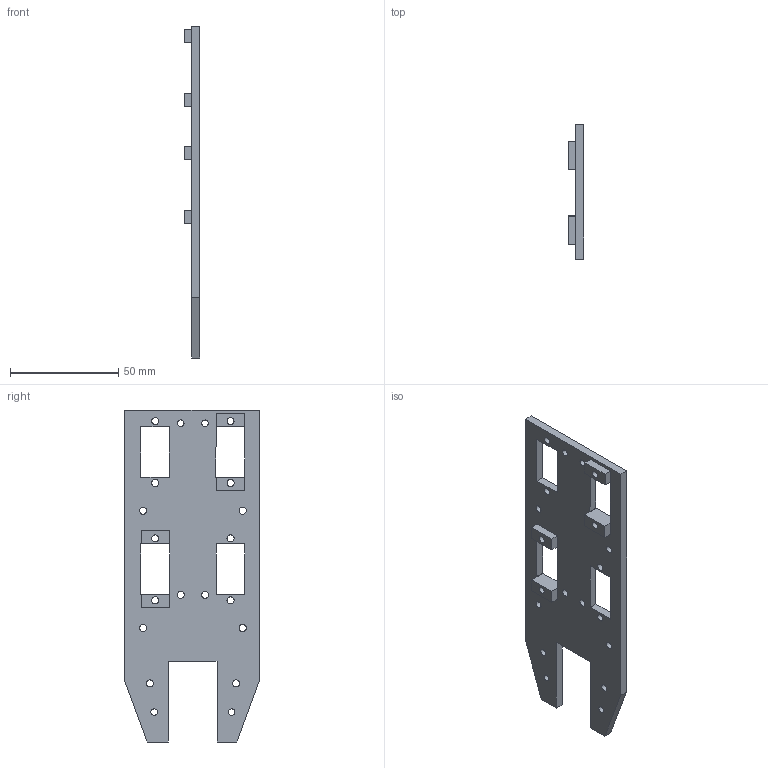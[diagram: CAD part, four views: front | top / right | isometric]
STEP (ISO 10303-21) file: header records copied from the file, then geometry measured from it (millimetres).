
FILE_DESCRIPTION(/* description */ ('STEP AP242 Edition 2','CAx-IF Rec.Pracs.---Representation and Presentation of Product Manufacturing Information (PMI)---4.0---2014-10-13','CAx-IF Rec.Pracs.---3D Tessellated Geometry---0.4---2014-09-14','2;1','CAx-IF Rec.Pracs.---User Defined Attributes---1.5---2016-08-15'),/* implementation_level */ '2;1');
FILE_NAME(/* name */ 'Assembly 1 - servo board',/* time_stamp */ '2026-06-19T18:21:10Z',/* author */ (''),/* organization */ (''),/* preprocessor_version */ 'ST-DEVELOPER v20',/* originating_system */ 'ONSHAPE BY PTC INC, 1.216',/* authorisation */ ' ');
FILE_SCHEMA (('AP242_MANAGED_MODEL_BASED_3D_ENGINEERING_MIM_LF { 1 0 10303 442 3 1 4 }'));
Length unit declared in the file: metre
Products named in the file (1): servo board
Bounding box: 7.36 x 62.18 x 153.27 mm (x, y, z)
Volume: 27520.8 mm3; surface area: 18412.9 mm2
Topology: 1 solids, 1 shells, 84 faces, 240 edges, 160 vertices
Faces by surface type: plane 64, cylinder 20
Full cylindrical faces by diameter (mm): 3.036 x1, 3.049 x1, 3.052 x1, 3.054 x1, 3.244 x2, 3.251 x1, 3.258 x1, 3.259 x3, 3.262 x1, 3.264 x1, 3.265 x1, 3.266 x1, 3.271 x3, 3.272 x1, 3.273 x1
Entity records: 2742 total; most frequent: CARTESIAN_POINT 465, ORIENTED_EDGE 440, DIRECTION 430, EDGE_CURVE 220, LINE 180, VECTOR 180, VERTEX_POINT 160, EDGE_LOOP 154
